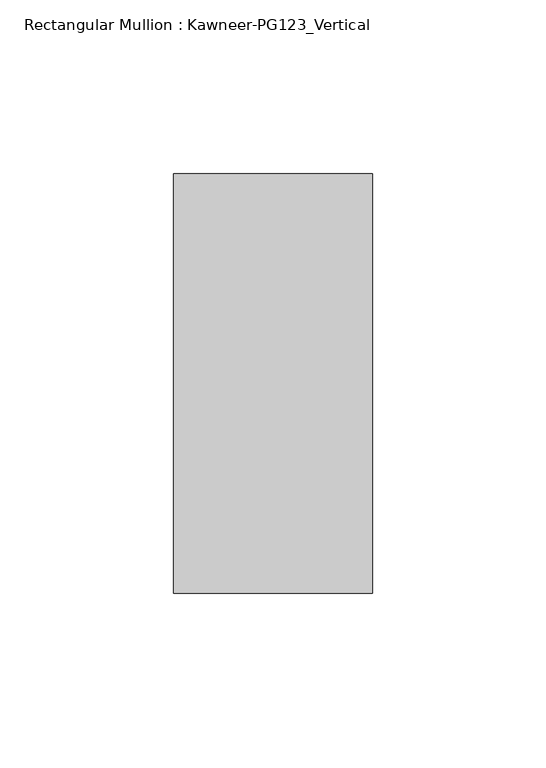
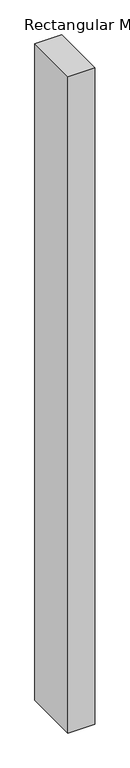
"""IFC4 building model written with IfcOpenShell, lengths in millimetres: member geometry, Rectangular Mullion : Kawneer-PG123_Vertical."""

from ifc_helpers import new_model, si_unit, frame, origin, place, context, project, spatial, polyline, outline, extrude, source, transform, mapped, element, save


def rectangular_mullion_kawneer_pg123_vertical_2a7591f2(model_context):
    return source(origin(), model_context, "Body", "SweptSolid", [
        extrude(outline(polyline([(-28.575, 69.2403998), (28.575, 69.2403998), (28.575, -51.4096002), (-28.575, -51.4096002), (-28.575, 69.2403998)])), frame((0.0, 0.0, -1466.85), z_axis=(0.0, 0.0, 1.0), x_axis=(1.0, 0.0, 0.0)), (0.0, 0.0, 1.0), 1466.85),
    ])


if __name__ == "__main__":
    model = new_model("IFC4")
    model_context = context("Model", 3, world=origin())
    ifc_project = project(units=[si_unit("LENGTHUNIT", "METRE", prefix="MILLI")], contexts=[model_context])
    site = spatial("IfcSite", under=ifc_project)
    building = spatial("IfcBuilding", under=site)
    placement = place(None, origin())
    rectangular_mullion_kawneer_pg123_vertical_shape = rectangular_mullion_kawneer_pg123_vertical_2a7591f2(model_context)
    element("IfcMember", 1, ObjectType="Rectangular Mullion : Kawneer-PG123_Vertical", at=placement, inside=building, context=model_context, shape_type="MappedRepresentation", body=[
        mapped(rectangular_mullion_kawneer_pg123_vertical_shape, transform((0.0, 0.0, 0.0), x_axis=(1.0, 0.0, 0.0), y_axis=(0.0, 1.0, 0.0), z_axis=(0.0, 0.0, 1.0))),
    ])
    save(model, "model.ifc")
